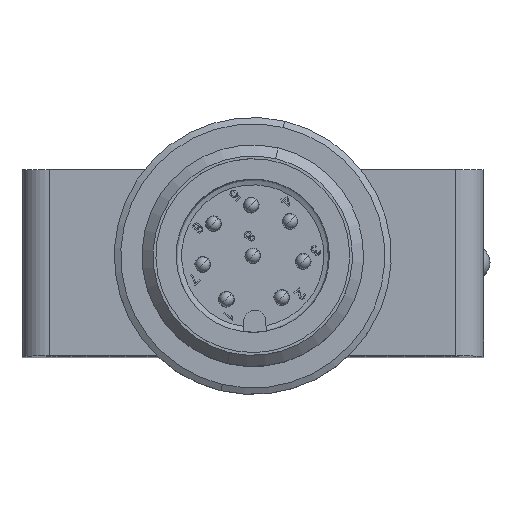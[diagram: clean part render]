
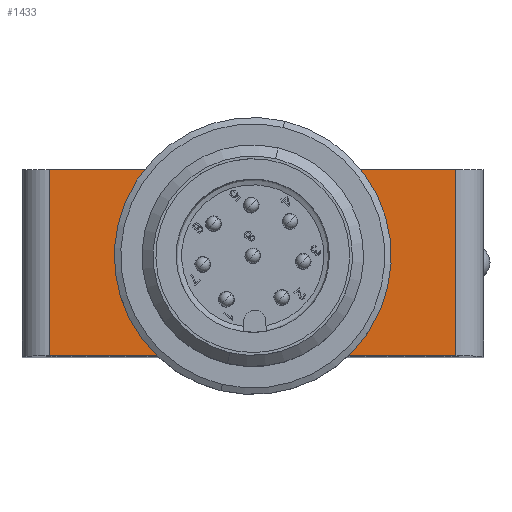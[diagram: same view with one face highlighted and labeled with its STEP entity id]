
A CAD part, top view. The second image highlights one B-rep face of the part: STEP entity #1433.
In plain terms, the highlighted planar face has unit normal (0, 0, 1).
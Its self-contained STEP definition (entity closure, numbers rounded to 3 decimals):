
#281=DIRECTION('',(0.,1.,0.));
#282=VECTOR('',#281,10.1);
#283=CARTESIAN_POINT('',(11.,-10.1,0.));
#284=LINE('',#283,#282);
#353=DIRECTION('',(0.,-1.,0.));
#354=VECTOR('',#353,10.1);
#355=CARTESIAN_POINT('',(-11.,0.,0.));
#356=LINE('',#355,#354);
#367=DIRECTION('',(1.,0.,0.));
#368=VECTOR('',#367,22.);
#369=CARTESIAN_POINT('',(-11.,0.,0.));
#370=LINE('',#369,#368);
#374=CARTESIAN_POINT('',(0.,-5.1,0.));
#375=DIRECTION('',(0.,0.,1.));
#376=DIRECTION('',(1.,0.,0.));
#377=AXIS2_PLACEMENT_3D('',#374,#375,#376);
#382=CARTESIAN_POINT('',(0.,-5.1,0.));
#383=DIRECTION('',(0.,0.,1.));
#384=DIRECTION('',(-1.,0.,0.));
#385=AXIS2_PLACEMENT_3D('',#382,#383,#384);
#443=DIRECTION('',(1.,0.,0.));
#444=VECTOR('',#443,22.);
#445=CARTESIAN_POINT('',(-11.,-10.1,0.));
#446=LINE('',#445,#444);
#1107=CARTESIAN_POINT('',(11.,0.,0.));
#1109=VERTEX_POINT('',#1107);
#1110=CARTESIAN_POINT('',(-11.,0.,0.));
#1111=VERTEX_POINT('',#1110);
#1136=CARTESIAN_POINT('',(11.,-10.1,0.));
#1137=VERTEX_POINT('',#1136);
#1152=CARTESIAN_POINT('',(-11.,-10.1,0.));
#1153=VERTEX_POINT('',#1152);
#1154=CARTESIAN_POINT('',(3.25,-5.1,0.));
#1155=CARTESIAN_POINT('',(-3.25,-5.1,0.));
#1156=VERTEX_POINT('',#1154);
#1157=VERTEX_POINT('',#1155);
#1415=CARTESIAN_POINT('',(12.5,0.,0.));
#1416=DIRECTION('',(0.,0.,1.));
#1417=DIRECTION('',(-1.,0.,0.));
#1418=AXIS2_PLACEMENT_3D('',#1415,#1416,#1417);
#1419=PLANE('',#1418);
#1420=ORIENTED_EDGE('',*,*,#1319,.F.);
#1422=ORIENTED_EDGE('',*,*,#1421,.F.);
#1423=ORIENTED_EDGE('',*,*,#1406,.F.);
#1424=ORIENTED_EDGE('',*,*,#1275,.T.);
#1425=EDGE_LOOP('',(#1420,#1422,#1423,#1424));
#1426=FACE_OUTER_BOUND('',#1425,.F.);
#1428=ORIENTED_EDGE('',*,*,#1427,.T.);
#1430=ORIENTED_EDGE('',*,*,#1429,.T.);
#1431=EDGE_LOOP('',(#1428,#1430));
#1432=FACE_BOUND('',#1431,.F.);
#378=CIRCLE('',#377,3.25);
#386=CIRCLE('',#385,3.25);
#1275=EDGE_CURVE('',#1111,#1109,#370,.T.);
#1319=EDGE_CURVE('',#1137,#1109,#284,.T.);
#1406=EDGE_CURVE('',#1111,#1153,#356,.T.);
#1421=EDGE_CURVE('',#1153,#1137,#446,.T.);
#1427=EDGE_CURVE('',#1156,#1157,#378,.T.);
#1429=EDGE_CURVE('',#1157,#1156,#386,.T.);
#1433=ADVANCED_FACE('',(#1426,#1432),#1419,.T.);
